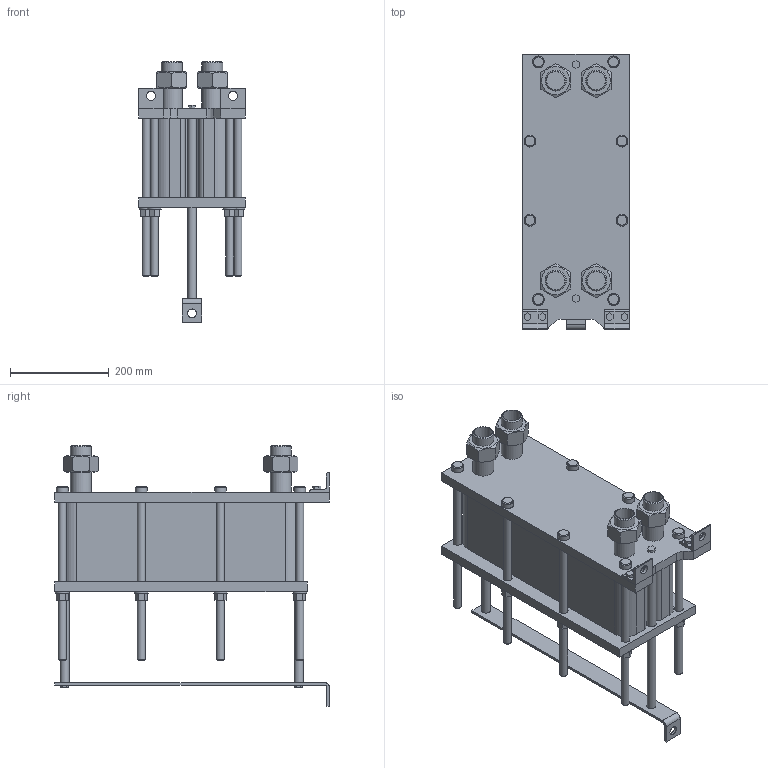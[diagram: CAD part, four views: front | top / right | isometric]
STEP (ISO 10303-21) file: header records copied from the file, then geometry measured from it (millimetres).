
FILE_DESCRIPTION(/* description */ (''),/* implementation_level */ '2;1');
FILE_NAME(/* name */ 'C:\Users\zhuro\Desktop\ENCO\TO\ЭН-004\ЭН-0,5-004-52-1.stp',/* time_stamp */ '2022-06-06T10:47:16+03:00',/* author */ ('zhuro'),/* organization */ (''),/* preprocessor_version */ 'ST-DEVELOPER v18.1',/* originating_system */ 'Autodesk Inventor 2022',/* authorisation */ '');
FILE_SCHEMA (('AUTOMOTIVE_DESIGN { 1 0 10303 214 3 1 1 }'));
Length unit declared in the file: millimetre
Products named in the file (1): ЭН-0,5-004-52-1
Bounding box: 216 x 555 x 526.6 mm (x, y, z)
Volume: 17675404 mm3; surface area: 1307987.9 mm2
Topology: 40 solids, 40 shells, 403 faces, 865 edges, 574 vertices
Faces by surface type: plane 272, cylinder 103, cone 28
Full cylindrical faces by diameter (mm): 10 x4, 16 x16, 18 x29, 20 x2, 24 x8, 28 x8, 36.3 x5, 42.3 x9
Entity records: 11137 total; most frequent: CARTESIAN_POINT 1939, DIRECTION 1879, ORIENTED_EDGE 1730, EDGE_CURVE 865, AXIS2_PLACEMENT_3D 658, VERTEX_POINT 574, LINE 563, VECTOR 563
